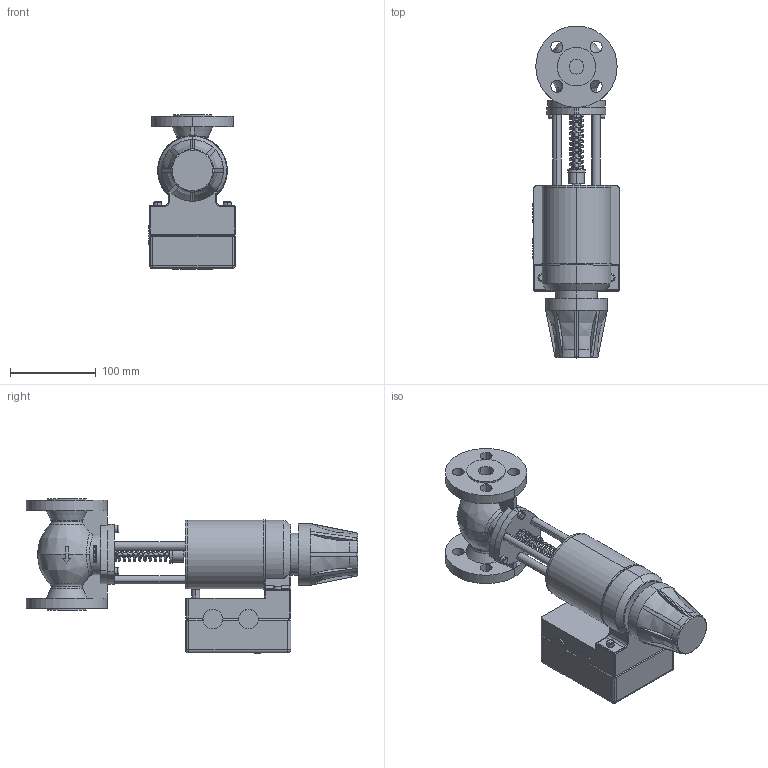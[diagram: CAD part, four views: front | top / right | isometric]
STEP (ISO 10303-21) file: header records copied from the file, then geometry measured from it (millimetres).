
FILE_DESCRIPTION((''),'2;1');
FILE_NAME('000140.stp','2006-10-04T16:12:28',(''),(''),'Mechanical Desktop 2006','Mechanical Desktop 2006',', , ');
FILE_SCHEMA(('AUTOMOTIVE_DESIGN { 1 2 10303 214 0 1 1 1 }'));
Length unit declared in the file: millimetre
Products named in the file (1): Product
Bounding box: 101.14 x 387.5 x 180.37 mm (x, y, z)
Volume: 2156190 mm3; surface area: 265574.8 mm2
Topology: 71 solids, 71 shells, 955 faces, 2338 edges, 1516 vertices
Faces by surface type: cylinder 428, plane 365, bspline 63, torus 59, cone 32, sphere 8
Entity records: 31979 total; most frequent: CARTESIAN_POINT 9805, ORIENTED_EDGE 4652, DIRECTION 4539, EDGE_CURVE 2326, AXIS2_PLACEMENT_3D 1784, VERTEX_POINT 1516, EDGE_LOOP 978, VECTOR 971
